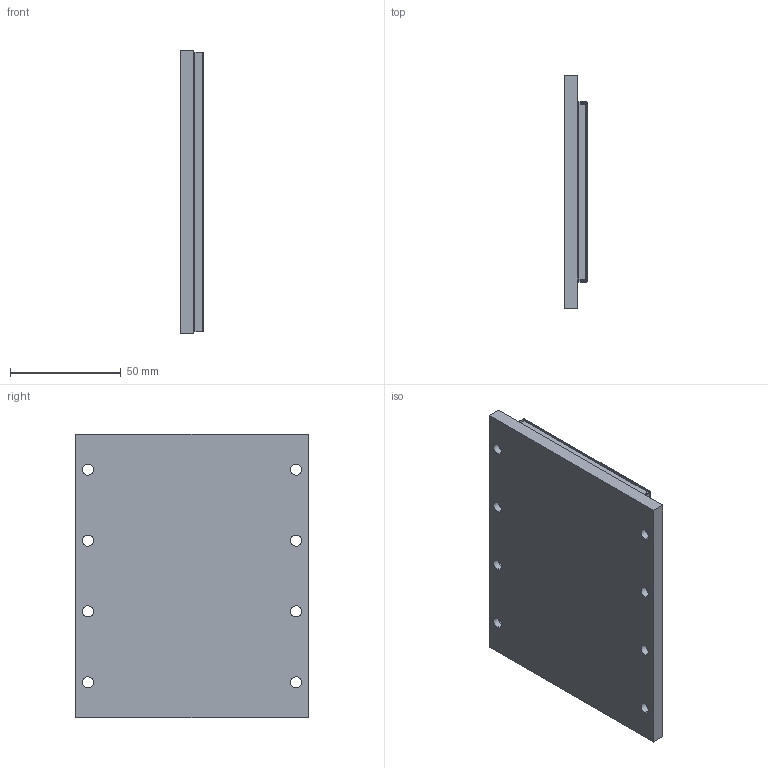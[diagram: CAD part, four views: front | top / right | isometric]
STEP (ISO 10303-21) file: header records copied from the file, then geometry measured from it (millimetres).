
FILE_DESCRIPTION (( 'STEP AP214' ), '1' );
FILE_NAME ('PIXM080-TL128-C.STEP', '2019-03-08T10:35:41', ( '' ), ( '' ), 'SwSTEP 2.0', 'SolidWorks 2016', '' );
FILE_SCHEMA (( 'AUTOMOTIVE_DESIGN' ));
Length unit declared in the file: millimetre
Products named in the file (4): 001SM080000001-CUSTOMER_TL128; 001SM080LXXX01_TL128; 001SM080LXXX02_TL128; PIXM080-TL128-C
Assembly tree (3 placements, depth 2):
  PIXM080-TL128-C
    001SM080LXXX01_TL128
    001SM080000001-CUSTOMER_TL128
    001SM080LXXX02_TL128
Bounding box: 10.3 x 105 x 128 mm (x, y, z)
Volume: 122252 mm3; surface area: 74259.6 mm2
Topology: 3 solids, 3 shells, 105 faces, 238 edges, 140 vertices
Faces by surface type: plane 49, cylinder 48, sphere 8
Entity records: 3046 total; most frequent: DIRECTION 548, CARTESIAN_POINT 481, ORIENTED_EDGE 460, EDGE_CURVE 230, AXIS2_PLACEMENT_3D 207, VERTEX_POINT 140, VECTOR 134, LINE 134
